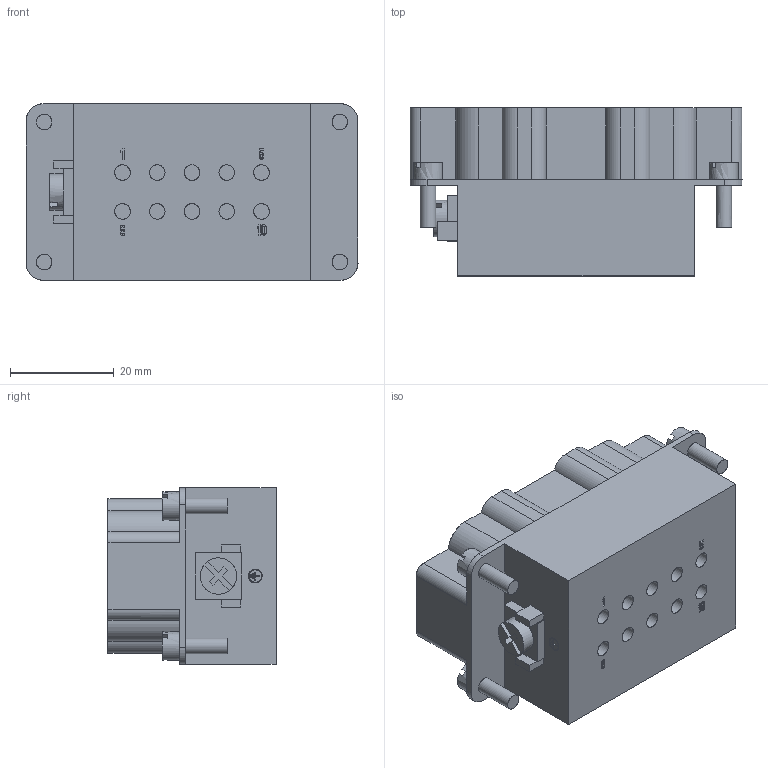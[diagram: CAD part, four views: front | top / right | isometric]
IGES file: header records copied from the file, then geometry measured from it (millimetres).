
Start section: VISI Layer Mapping Iges    VISI  0      LAYER0  1      WARNINGS
Global section: file name: G:\Produktkommunikation\Support\CD-Online-Katalog\3D Daten Produkte\E2702\E2702_10B.igs; native system: VISI 20.0; preprocessor: 2.0; author: nus; organization: Unknown; date: 20130402.120924; units: millimetre
Bounding box: 64.01 x 32.41 x 34.03 mm (x, y, z)
Surface area: 14985.1 mm2 (no closed solid volume)
Topology: 0 solids, 0 shells, 351 faces, 2987 edges, 2944 vertices
Faces by surface type: bspline 351
